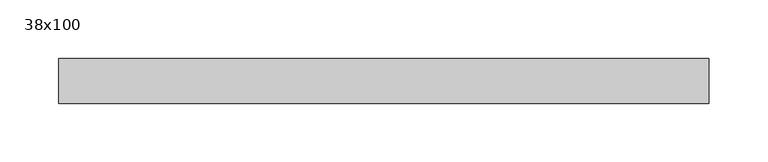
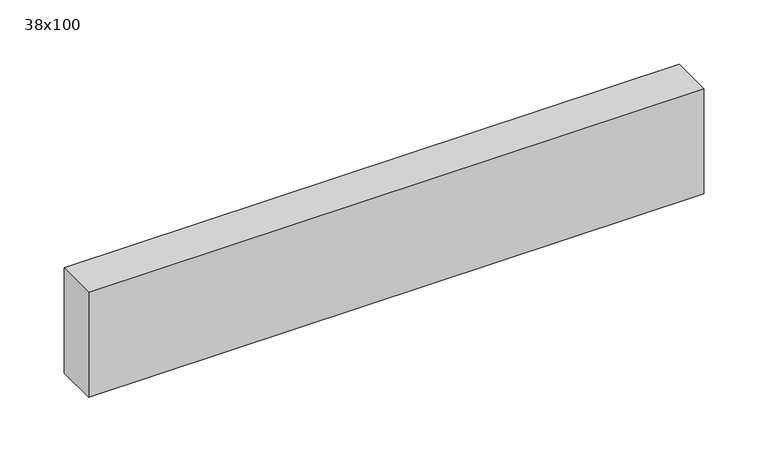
"""IFC4 building model written with IfcOpenShell, lengths in millimetres: beam geometry, Poutre - Bois de construction de dimensions courantes : 38x100."""

from ifc_helpers import new_model, si_unit, frame, origin, place, context, project, spatial, polyline, outline, extrude, source, transform, mapped, element, save


def beam_38x100_4f166c53(model_context):
    return source(origin(), model_context, "Body", "SweptSolid", [
        extrude(outline(polyline([(270.0, 19.05), (270.0, -19.05), (-283.0, -19.05), (-283.0, 19.05), (270.0, 19.05)])), frame((0.0, 0.0, -50.0), z_axis=(0.0, 0.0, 1.0), x_axis=(1.0, 0.0, 0.0)), (0.0, 0.0, 1.0), 100.0),
    ])


if __name__ == "__main__":
    model = new_model("IFC4")
    model_context = context("Model", 3, world=origin())
    ifc_project = project(units=[si_unit("LENGTHUNIT", "METRE", prefix="MILLI")], contexts=[model_context])
    site = spatial("IfcSite", under=ifc_project)
    building = spatial("IfcBuilding", under=site)
    placement = place(None, origin())
    beam_38x100_shape = beam_38x100_4f166c53(model_context)
    element("IfcBeam", 1, ObjectType="Poutre - Bois de construction de dimensions courantes : 38x100", at=placement, inside=building, context=model_context, shape_type="MappedRepresentation", body=[
        mapped(beam_38x100_shape, transform((0.0, 0.0, 0.0), x_axis=(1.0, 0.0, 0.0), y_axis=(0.0, 1.0, 0.0), z_axis=(0.0, 0.0, 1.0))),
    ])
    save(model, "model.ifc")
